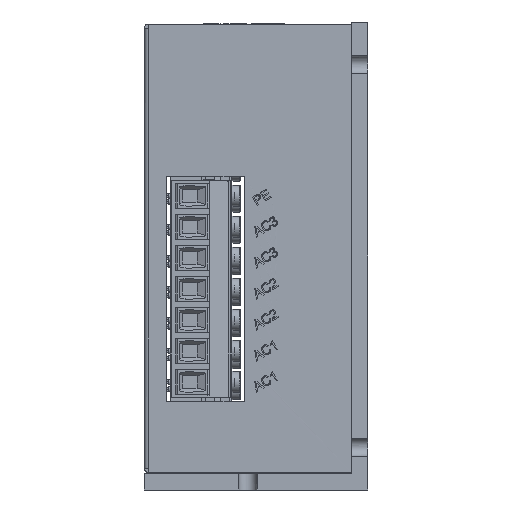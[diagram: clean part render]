
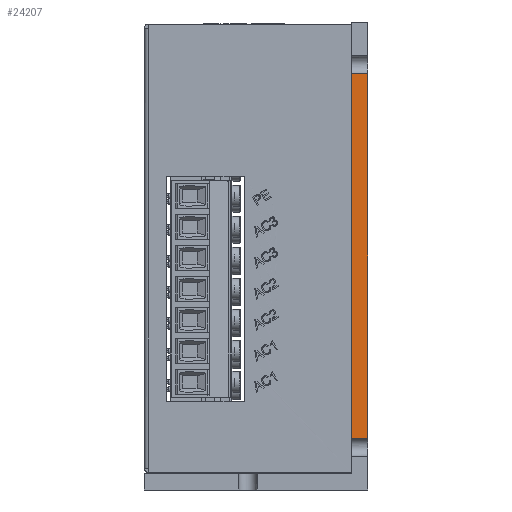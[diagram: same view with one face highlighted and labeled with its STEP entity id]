
A CAD part, left-side view. The second image highlights one B-rep face of the part: STEP entity #24207.
In plain terms, the highlighted free-form (B-spline) face has degree [1, 1] with [2, 2] control points.
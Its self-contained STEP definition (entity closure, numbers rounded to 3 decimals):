
#3875 = B_SPLINE_SURFACE_WITH_KNOTS ( 'NONE', 1, 1, ( 
 ( #123749, #92220 ),
 ( #28600, #102840 ) ),
 .UNSPECIFIED., .F., .F., .F.,
 ( 2, 2 ),
 ( 2, 2 ),
 ( 0., 1. ),
 ( 0., 1. ),
 .UNSPECIFIED. ) ;
#6707 = CARTESIAN_POINT ( 'NONE',  ( -95., 4., 12.75 ) ) ;
#7143 = EDGE_CURVE ( 'NONE', #109765, #45286, #51467, .T. ) ;
#19973 = ORIENTED_EDGE ( 'NONE', *, *, #7143, .T. ) ;
#24207 = ADVANCED_FACE ( 'NONE', ( #118637 ), #3875, .T. ) ;
#28600 = CARTESIAN_POINT ( 'NONE',  ( -95., 0., 102.25 ) ) ;
#31442 = EDGE_LOOP ( 'NONE', ( #128961, #93318, #19973, #83786 ) ) ;
#31474 = EDGE_CURVE ( 'NONE', #45286, #59745, #32914, .T. ) ;
#32100 = B_SPLINE_CURVE_WITH_KNOTS ( 'NONE', 1,
 ( #122432, #133044 ),
 .UNSPECIFIED., .F., .F.,
 ( 2, 2 ),
 ( 0., 1. ),
 .UNSPECIFIED. ) ;
#32461 = VERTEX_POINT ( 'NONE', #50247 ) ;
#32699 = CARTESIAN_POINT ( 'NONE',  ( -95., 4., 12.75 ) ) ;
#32914 = B_SPLINE_CURVE_WITH_KNOTS ( 'NONE', 1,
 ( #46799, #110431 ),
 .UNSPECIFIED., .F., .F.,
 ( 2, 2 ),
 ( 0., 1. ),
 .UNSPECIFIED. ) ;
#45286 = VERTEX_POINT ( 'NONE', #74830 ) ;
#46799 = CARTESIAN_POINT ( 'NONE',  ( -95., 0., 12.75 ) ) ;
#50247 = CARTESIAN_POINT ( 'NONE',  ( -95., 4., 102.25 ) ) ;
#51467 = B_SPLINE_CURVE_WITH_KNOTS ( 'NONE', 1,
 ( #6707, #123275 ),
 .UNSPECIFIED., .F., .F.,
 ( 2, 2 ),
 ( 0., 1. ),
 .UNSPECIFIED. ) ;
#59745 = VERTEX_POINT ( 'NONE', #111581 ) ;
#63668 = CARTESIAN_POINT ( 'NONE',  ( -95., 4., 102.25 ) ) ;
#64146 = CARTESIAN_POINT ( 'NONE',  ( -95., 0., 102.25 ) ) ;
#74830 = CARTESIAN_POINT ( 'NONE',  ( -95., 0., 12.75 ) ) ;
#81492 = EDGE_CURVE ( 'NONE', #32461, #109765, #32100, .T. ) ;
#83786 = ORIENTED_EDGE ( 'NONE', *, *, #31474, .T. ) ;
#92220 = CARTESIAN_POINT ( 'NONE',  ( -95., 4., 12.75 ) ) ;
#93318 = ORIENTED_EDGE ( 'NONE', *, *, #81492, .T. ) ;
#102840 = CARTESIAN_POINT ( 'NONE',  ( -95., 4., 102.25 ) ) ;
#105707 = EDGE_CURVE ( 'NONE', #59745, #32461, #131005, .T. ) ;
#109765 = VERTEX_POINT ( 'NONE', #32699 ) ;
#110431 = CARTESIAN_POINT ( 'NONE',  ( -95., 0., 102.25 ) ) ;
#111581 = CARTESIAN_POINT ( 'NONE',  ( -95., 0., 102.25 ) ) ;
#118637 = FACE_OUTER_BOUND ( 'NONE', #31442, .T. ) ;
#122432 = CARTESIAN_POINT ( 'NONE',  ( -95., 4., 102.25 ) ) ;
#123275 = CARTESIAN_POINT ( 'NONE',  ( -95., 0., 12.75 ) ) ;
#123749 = CARTESIAN_POINT ( 'NONE',  ( -95., 0., 12.75 ) ) ;
#128961 = ORIENTED_EDGE ( 'NONE', *, *, #105707, .T. ) ;
#131005 = B_SPLINE_CURVE_WITH_KNOTS ( 'NONE', 1,
 ( #64146, #63668 ),
 .UNSPECIFIED., .F., .F.,
 ( 2, 2 ),
 ( 0., 1. ),
 .UNSPECIFIED. ) ;
#133044 = CARTESIAN_POINT ( 'NONE',  ( -95., 4., 12.75 ) ) ;
